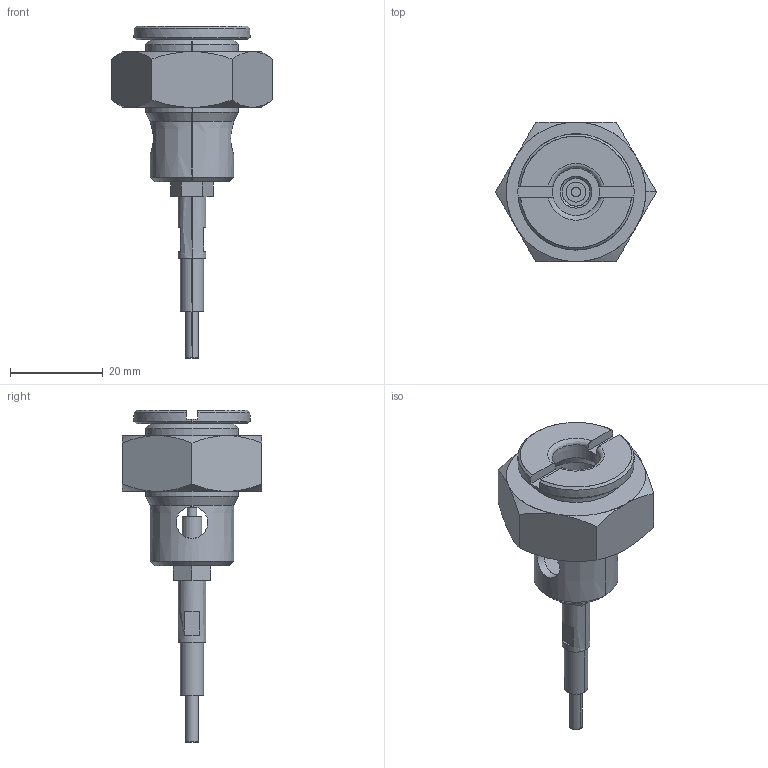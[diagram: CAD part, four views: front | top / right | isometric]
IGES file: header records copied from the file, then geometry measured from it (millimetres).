
Start section: SolidWorks IGES file using analytic representation for surfaces
Global section: file name: X:\11_SW2020-Inv2020\00_全2021-11新製品まで\q\QCWE1034-M20-S\qcwe1034-m20-s.IGS; native system: SolidWorks 2020; preprocessor: SolidWorks 2020; author: ImaoCorp; date: 211021.172808; units: millimetre
Bounding box: 34.64 x 30 x 71.4 mm (x, y, z)
Surface area: 8499.9 mm2 (no closed solid volume)
Topology: 0 solids, 0 shells, 118 faces, 1871 edges, 1871 vertices
Faces by surface type: revolution 71, bspline 47
